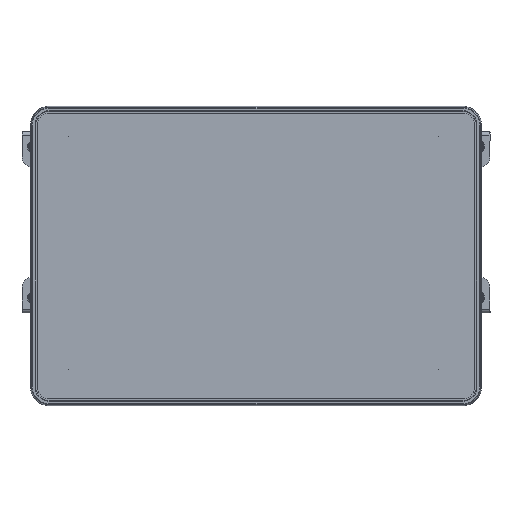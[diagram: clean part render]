
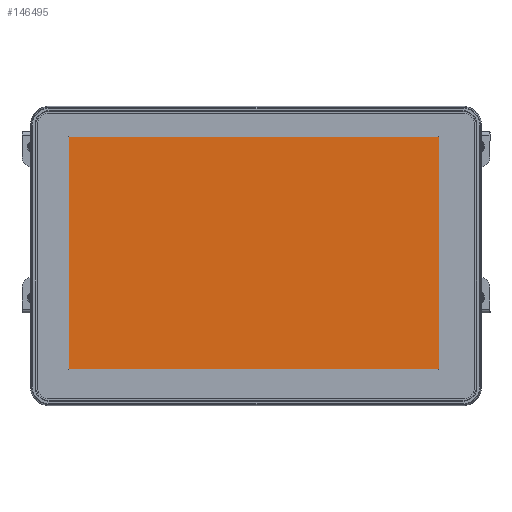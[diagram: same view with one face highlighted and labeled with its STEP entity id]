
A CAD part, top view. The second image highlights one B-rep face of the part: STEP entity #146495.
In plain terms, the highlighted planar face has unit normal (0, 0, 1).
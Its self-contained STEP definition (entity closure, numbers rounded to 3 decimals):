
#7451=PLANE('',#155238);
#11736=FACE_OUTER_BOUND('',#20438,.T.);
#20438=EDGE_LOOP('',(#99384,#99385,#99386,#99387));
#30736=LINE('',#211068,#44396);
#30740=LINE('',#211075,#44400);
#30743=LINE('',#211081,#44403);
#30745=LINE('',#211084,#44405);
#44396=VECTOR('',#168179,10.);
#44400=VECTOR('',#168185,10.);
#44403=VECTOR('',#168190,10.);
#44405=VECTOR('',#168194,10.);
#62932=VERTEX_POINT('',#211065);
#62933=VERTEX_POINT('',#211067);
#62935=VERTEX_POINT('',#211073);
#62937=VERTEX_POINT('',#211079);
#77047=EDGE_CURVE('',#62932,#62933,#30736,.T.);
#77051=EDGE_CURVE('',#62935,#62932,#30740,.T.);
#77054=EDGE_CURVE('',#62937,#62935,#30743,.T.);
#77056=EDGE_CURVE('',#62933,#62937,#30745,.T.);
#99384=ORIENTED_EDGE('',*,*,#77056,.F.);
#99385=ORIENTED_EDGE('',*,*,#77047,.F.);
#99386=ORIENTED_EDGE('',*,*,#77051,.F.);
#99387=ORIENTED_EDGE('',*,*,#77054,.F.);
#146495=ADVANCED_FACE('',(#11736),#7451,.F.);
#155238=AXIS2_PLACEMENT_3D('',#211085,#168195,#168196);
#168179=DIRECTION('',(0.,1.,0.));
#168185=DIRECTION('',(-1.,0.,0.));
#168190=DIRECTION('',(0.,-1.,0.));
#168194=DIRECTION('',(1.,0.,0.));
#168195=DIRECTION('center_axis',(0.,0.,
-1.));
#168196=DIRECTION('ref_axis',(-1.,0.,0.));
#211065=CARTESIAN_POINT('',(-110.29,-66.68,1.829));
#211067=CARTESIAN_POINT('',(-110.29,70.32,1.829));
#211068=CARTESIAN_POINT('',(-110.29,-66.68,1.829));
#211073=CARTESIAN_POINT('',(107.71,-66.68,1.829));
#211075=CARTESIAN_POINT('',(107.71,-66.68,1.829));
#211079=CARTESIAN_POINT('',(107.71,70.32,1.829));
#211081=CARTESIAN_POINT('',(107.71,70.32,1.829));
#211084=CARTESIAN_POINT('',(-110.29,70.32,1.829));
#211085=CARTESIAN_POINT('Origin',(-1.29,1.82,1.829));
